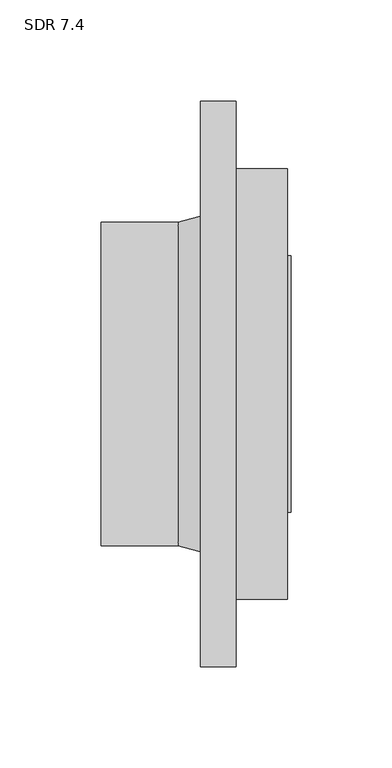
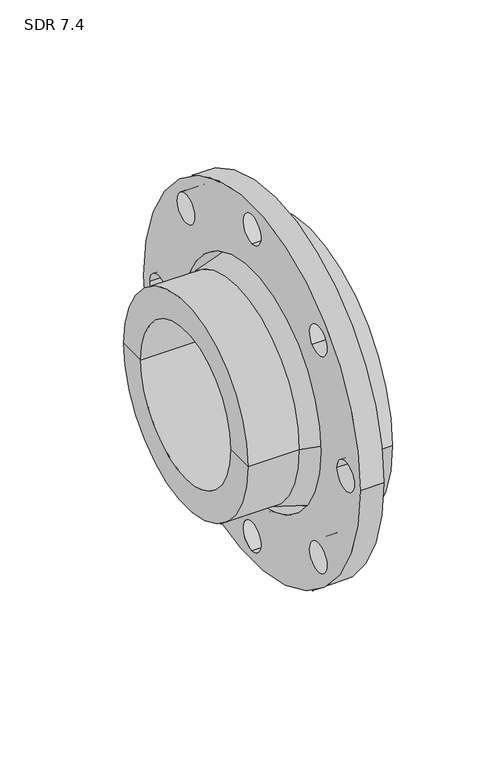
"""IFC4 building model written with IfcOpenShell, lengths in millimetres: valve geometry, Aquatherm - Flange Adapter Butt-Weld : SDR 7.4."""

from ifc_helpers import new_model, si_unit, point, frame, frame_2d, origin, origin_2d, place, context, project, spatial, polyline, circle_curve, trimmed, segment, composite_curve, outline, extrude, source, transform, mapped, element, save
from ifc_brep_helpers import plane_surface, cylinder_surface, revolved_surface, advanced_brep


def sdr_7_4_367cfa70(model_context):
    return source(origin(), model_context, "Body", "SolidModel", [
        extrude(outline(composite_curve([segment(trimmed(circle_curve(origin_2d(), 139.7), [point((-139.7, 0.0))], [point((139.7, 0.0))], False, "CARTESIAN"), True, "CONTINUOUS"), segment(trimmed(circle_curve(origin_2d(), 139.7), [point((139.7, 0.0))], [point((-139.7, 0.0))], False, "CARTESIAN"), True, "CONTINUOUS")], self_intersect=False), holes=[composite_curve([segment(trimmed(circle_curve(origin_2d(), 88.9), [point((-88.9, 0.0))], [point((88.9, 0.0))], True, "CARTESIAN"), True, "CONTINUOUS"), segment(trimmed(circle_curve(origin_2d(), 88.9), [point((88.9, 0.0))], [point((-88.9, 0.0))], True, "CARTESIAN"), True, "CONTINUOUS")], self_intersect=False), composite_curve([segment(trimmed(circle_curve(frame_2d((120.65, 0.0)), 11.176), [point((109.474, 0.0))], [point((131.826, 0.0))], True, "CARTESIAN"), True, "CONTINUOUS"), segment(trimmed(circle_curve(frame_2d((120.65, 0.0)), 11.176), [point((131.826, 0.0))], [point((109.474, 0.0))], True, "CARTESIAN"), True, "CONTINUOUS")], self_intersect=False), composite_curve([segment(trimmed(circle_curve(frame_2d((85.3124332, -85.3124332)), 11.176), [point((77.4098078, -77.4098078))], [point((93.2150585, -93.2150585))], True, "CARTESIAN"), True, "CONTINUOUS"), segment(trimmed(circle_curve(frame_2d((85.3124332, -85.3124332)), 11.176), [point((93.2150585, -93.2150585))], [point((77.4098078, -77.4098078))], True, "CARTESIAN"), True, "CONTINUOUS")], self_intersect=False), composite_curve([segment(trimmed(circle_curve(frame_2d((85.3124332, 85.3124332)), 11.176), [point((77.4098078, 77.4098078))], [point((93.2150585, 93.2150585))], True, "CARTESIAN"), True, "CONTINUOUS"), segment(trimmed(circle_curve(frame_2d((85.3124332, 85.3124332)), 11.176), [point((93.2150585, 93.2150585))], [point((77.4098078, 77.4098078))], True, "CARTESIAN"), True, "CONTINUOUS")], self_intersect=False), composite_curve([segment(trimmed(circle_curve(frame_2d((0.0, 120.65)), 11.176), [point((0.0, 109.474))], [point((0.0, 131.826))], True, "CARTESIAN"), True, "CONTINUOUS"), segment(trimmed(circle_curve(frame_2d((0.0, 120.65)), 11.176), [point((0.0, 131.826))], [point((0.0, 109.474))], True, "CARTESIAN"), True, "CONTINUOUS")], self_intersect=False), composite_curve([segment(trimmed(circle_curve(frame_2d((-85.3124332, 85.3124332)), 11.176), [point((-77.4098078, 77.4098078))], [point((-93.2150585, 93.2150585))], True, "CARTESIAN"), True, "CONTINUOUS"), segment(trimmed(circle_curve(frame_2d((-85.3124332, 85.3124332)), 11.176), [point((-93.2150585, 93.2150585))], [point((-77.4098078, 77.4098078))], True, "CARTESIAN"), True, "CONTINUOUS")], self_intersect=False), composite_curve([segment(trimmed(circle_curve(frame_2d((-120.65, 0.0)), 11.176), [point((-109.474, 0.0))], [point((-131.826, 0.0))], True, "CARTESIAN"), True, "CONTINUOUS"), segment(trimmed(circle_curve(frame_2d((-120.65, 0.0)), 11.176), [point((-131.826, 0.0))], [point((-109.474, 0.0))], True, "CARTESIAN"), True, "CONTINUOUS")], self_intersect=False), composite_curve([segment(trimmed(circle_curve(frame_2d((-85.3124332, -85.3124332)), 11.176), [point((-77.4098078, -77.4098078))], [point((-93.2150585, -93.2150585))], True, "CARTESIAN"), True, "CONTINUOUS"), segment(trimmed(circle_curve(frame_2d((-85.3124332, -85.3124332)), 11.176), [point((-93.2150585, -93.2150585))], [point((-77.4098078, -77.4098078))], True, "CARTESIAN"), True, "CONTINUOUS")], self_intersect=False), composite_curve([segment(trimmed(circle_curve(frame_2d((0.0, -120.65)), 11.176), [point((0.0, -109.474))], [point((0.0, -131.826))], True, "CARTESIAN"), True, "CONTINUOUS"), segment(trimmed(circle_curve(frame_2d((0.0, -120.65)), 11.176), [point((0.0, -131.826))], [point((0.0, -109.474))], True, "CARTESIAN"), True, "CONTINUOUS")], self_intersect=False)]), frame((-17.526, 0.0, 0.0), z_axis=(1.0, 0.0, 0.0), x_axis=(0.0, 1.0, 0.0)), (0.0, 0.0, 1.0), 17.526),
        advanced_brep(
        [(25.4, 106.426, 0.0), (25.4, -106.426, 0.0), (0.0, -106.426, 0.0), (0.0, 106.426, 0.0), (26.9875, 58.166, 0.0), (26.9875, -58.166, 0.0), (26.9875, -63.246, 0.0), (26.9875, 63.246, 0.0), (-66.802, 58.166, 0.0), (-66.802, -58.166, 0.0), (-66.802, 80.01, 0.0), (-66.802, -80.01, 0.0), (-28.702, 80.01, 0.0), (-28.702, -80.01, 0.0), (0.0, -87.503, 0.0), (0.0, 87.503, 0.0), (25.4, 63.246, 0.0), (25.4, -63.246, 0.0)],
        [
            (0, 1, circle_curve(frame((25.4, 0.0, 0.0), z_axis=(-1.0, 0.0, 0.0), x_axis=(0.0, -1.0, 0.0)), 106.426)),
            (1, 2),
            (2, 3, circle_curve(frame((0.0, 0.0, 0.0), z_axis=(1.0, 0.0, 0.0), x_axis=(0.0, -1.0, 0.0)), 106.426)),
            (3, 0),
            (1, 0, circle_curve(frame((25.4, 0.0, 0.0), z_axis=(-1.0, 0.0, 0.0), x_axis=(0.0, -1.0, 0.0)), 106.426)),
            (3, 2, circle_curve(frame((0.0, 0.0, 0.0), z_axis=(1.0, 0.0, 0.0), x_axis=(0.0, -1.0, 0.0)), 106.426)),
            (4, 5, circle_curve(frame((26.9875, 0.0, 0.0), z_axis=(-1.0, 0.0, 0.0), x_axis=(0.0, -1.0, 0.0)), 58.166)),
            (5, 6),
            (6, 7, circle_curve(frame((26.9875, 0.0, 0.0), z_axis=(1.0, 0.0, 0.0), x_axis=(0.0, -1.0, 0.0)), 63.246)),
            (7, 4),
            (5, 4, circle_curve(frame((26.9875, 0.0, 0.0), z_axis=(-1.0, 0.0, 0.0), x_axis=(0.0, -1.0, 0.0)), 58.166)),
            (7, 6, circle_curve(frame((26.9875, 0.0, 0.0), z_axis=(1.0, 0.0, 0.0), x_axis=(0.0, -1.0, 0.0)), 63.246)),
            (8, 9, circle_curve(frame((-66.802, 0.0, 0.0), z_axis=(-1.0, 0.0, 0.0), x_axis=(0.0, -1.0, 0.0)), 58.166)),
            (9, 5),
            (4, 8),
            (9, 8, circle_curve(frame((-66.802, 0.0, 0.0), z_axis=(-1.0, 0.0, 0.0), x_axis=(0.0, -1.0, 0.0)), 58.166)),
            (10, 11, circle_curve(frame((-66.802, 0.0, 0.0), z_axis=(-1.0, 0.0, 0.0), x_axis=(0.0, -1.0, 0.0)), 80.01)),
            (11, 9),
            (8, 10),
            (11, 10, circle_curve(frame((-66.802, 0.0, 0.0), z_axis=(-1.0, 0.0, 0.0), x_axis=(0.0, -1.0, 0.0)), 80.01)),
            (12, 13, circle_curve(frame((-28.702, 0.0, 0.0), z_axis=(-1.0, 0.0, 0.0), x_axis=(0.0, -1.0, 0.0)), 80.01)),
            (13, 11),
            (10, 12),
            (13, 12, circle_curve(frame((-28.702, 0.0, 0.0), z_axis=(-1.0, 0.0, 0.0), x_axis=(0.0, -1.0, 0.0)), 80.01)),
            (2, 14),
            (14, 15, circle_curve(frame((0.0, 0.0, 0.0), z_axis=(1.0, 0.0, 0.0), x_axis=(0.0, -1.0, 0.0)), 87.503)),
            (15, 3),
            (15, 14, circle_curve(frame((0.0, 0.0, 0.0), z_axis=(1.0, 0.0, 0.0), x_axis=(0.0, -1.0, 0.0)), 87.503)),
            (16, 17, circle_curve(frame((25.4, 0.0, 0.0), z_axis=(-1.0, 0.0, 0.0), x_axis=(0.0, -1.0, 0.0)), 63.246)),
            (17, 1),
            (0, 16),
            (17, 16, circle_curve(frame((25.4, 0.0, 0.0), z_axis=(-1.0, 0.0, 0.0), x_axis=(0.0, -1.0, 0.0)), 63.246)),
            (6, 17),
            (16, 7),
            (14, 13),
            (12, 15),
        ],
        [
            cylinder_surface(frame((1466.0389321, 0.0, 0.0), z_axis=(1.0, 0.0, 0.0), x_axis=(0.0, -1.0, 0.0)), 106.426),
            plane_surface(frame((26.9875, 0.0, 0.0), z_axis=(1.0, 0.0, 0.0), x_axis=(0.0, -1.0, 0.0))),
            revolved_surface(polyline([(26.987499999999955, -58.166, 0.0), (-66.80199999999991, -58.166, 0.0)]), (1466.0389321, 0.0, 0.0), (1.0, 0.0, 0.0)),
            plane_surface(frame((-66.802, 0.0, 0.0), z_axis=(-1.0, 0.0, 0.0), x_axis=(0.0, -1.0, 0.0))),
            cylinder_surface(frame((1466.0389321, 0.0, 0.0), z_axis=(1.0, 0.0, 0.0), x_axis=(0.0, -1.0, 0.0)), 80.01),
            plane_surface(frame((0.0, 0.0, 0.0), z_axis=(-1.0, 0.0, 0.0), x_axis=(0.0, -1.0, 0.0))),
            plane_surface(frame((25.4, 0.0, 0.0), z_axis=(1.0, 0.0, 0.0), x_axis=(0.0, -1.0, 0.0))),
            cylinder_surface(frame((1466.0389321, 0.0, 0.0), z_axis=(1.0, 0.0, 0.0), x_axis=(0.0, -1.0, 0.0)), 63.246),
            revolved_surface(polyline([(-28.702, -80.01, 0.0), (0.0, -87.503, 0.0)]), (1466.0389321, 0.0, 0.0), (1.0, 0.0, 0.0)),
        ],
        [
            (0, [[1, 2, 3, 4]]),
            (0, [[5, -4, 6, -2]]),
            (1, [[7, 8, 9, 10]]),
            (1, [[11, -10, 12, -8]]),
            (2, [[13, 14, -7, 15]]),
            (2, [[16, -15, -11, -14]]),
            (3, [[17, 18, -13, 19]]),
            (3, [[20, -19, -16, -18]]),
            (4, [[21, 22, -17, 23]]),
            (4, [[24, -23, -20, -22]]),
            (5, [[-3, 25, 26, 27]]),
            (5, [[-6, -27, 28, -25]]),
            (6, [[29, 30, -1, 31]]),
            (6, [[32, -31, -5, -30]]),
            (7, [[-9, 33, -29, 34]]),
            (7, [[-12, -34, -32, -33]]),
            (8, [[-26, 35, -21, 36]]),
            (8, [[-28, -36, -24, -35]]),
        ],
    ),
    ])


if __name__ == "__main__":
    model = new_model("IFC4")
    model_context = context("Model", 3, world=origin())
    ifc_project = project(units=[si_unit("LENGTHUNIT", "METRE", prefix="MILLI")], contexts=[model_context])
    site = spatial("IfcSite", under=ifc_project)
    building = spatial("IfcBuilding", under=site)
    placement = place(None, origin())
    sdr_7_4_shape = sdr_7_4_367cfa70(model_context)
    element("IfcValve", 1, ObjectType="Aquatherm - Flange Adapter Butt-Weld : SDR 7.4", at=placement, inside=building, context=model_context, shape_type="MappedRepresentation", body=[
        mapped(sdr_7_4_shape, transform((0.0, 0.0, 0.0), x_axis=(1.0, 0.0, 0.0), y_axis=(0.0, 1.0, 0.0), z_axis=(0.0, 0.0, 1.0))),
    ])
    save(model, "model.ifc")
